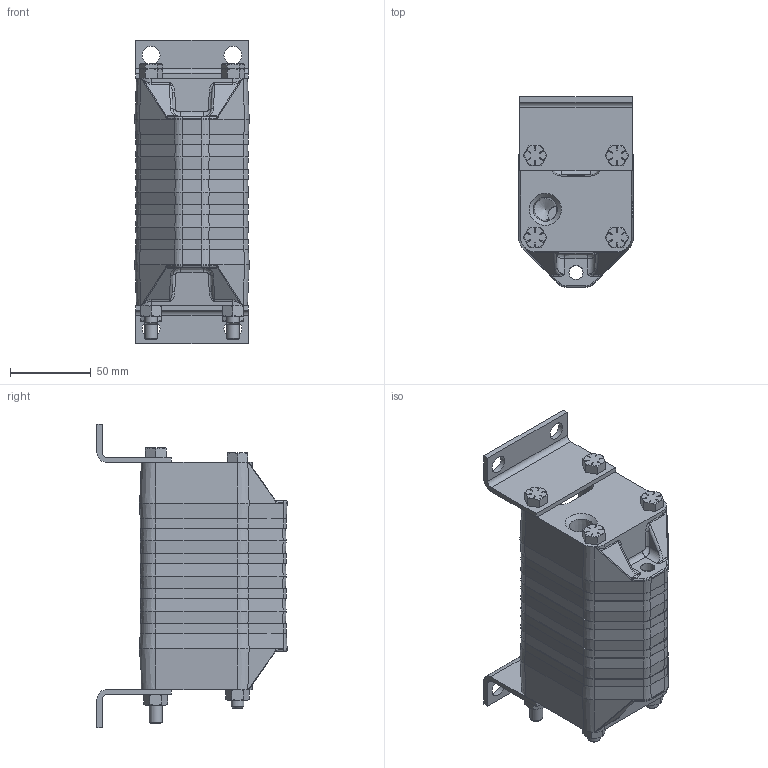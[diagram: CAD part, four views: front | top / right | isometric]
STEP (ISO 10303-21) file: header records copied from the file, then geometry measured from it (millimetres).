
FILE_DESCRIPTION(/* description */ (''),/* implementation_level */ '2;1');
FILE_NAME(/* name */ 'C:\Users\kevin\Desktop\RELATED\PPM2.stp',/* time_stamp */ '2014-03-07T12:50:57-06:00',/* author */ ('kevin'),/* organization */ (''),/* preprocessor_version */ 'ST-DEVELOPER v15.2',/* originating_system */ 'Autodesk Inventor 2014',/* authorisation */ '');
FILE_SCHEMA (('AUTOMOTIVE_DESIGN { 1 0 10303 214 3 1 1 }'));
Length unit declared in the file: inch
Products named in the file (1): 85001125_Shrinkwrap_1
Bounding box: 71.01 x 118.04 x 188.49 mm (x, y, z)
Surface area: 100361.3 mm2 (no closed solid volume)
Topology: 0 solids, 32 shells, 466 faces, 1390 edges, 920 vertices
Faces by surface type: plane 197, cone 142, cylinder 69, bspline 50, torus 8
Full cylindrical faces by diameter (mm): 7.938 x4, 8.738 x2, 11.112 x2, 11.125 x4, 12.7 x3
Entity records: 19598 total; most frequent: CARTESIAN_POINT 7578, DIRECTION 2367, ORIENTED_EDGE 2170, EDGE_CURVE 1319, VERTEX_POINT 898, AXIS2_PLACEMENT_3D 894, EDGE_LOOP 588, LINE 579
